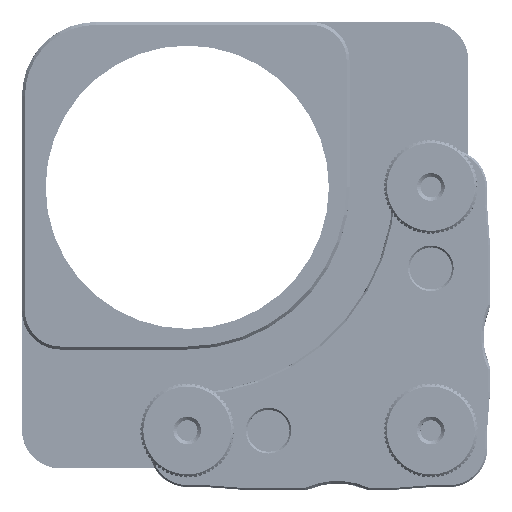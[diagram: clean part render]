
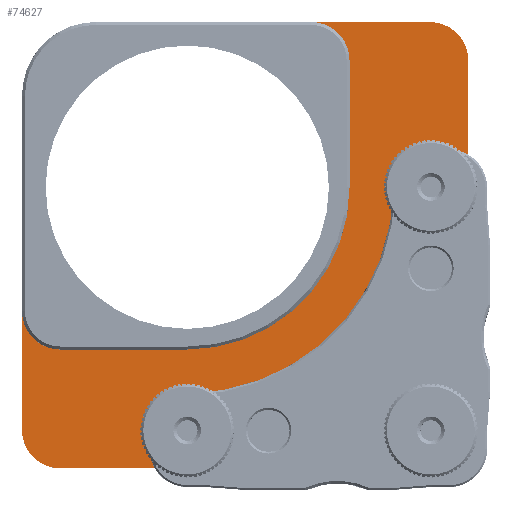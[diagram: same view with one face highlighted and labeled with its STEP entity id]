
A CAD part, top view. The second image highlights one B-rep face of the part: STEP entity #74627.
In plain terms, the highlighted planar face has unit normal (0, 0, 1).
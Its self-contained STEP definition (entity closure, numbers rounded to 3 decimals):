
#69602=CARTESIAN_POINT('',(-72.3,29.8,-3.429));
#69603=DIRECTION('',(0.,0.,-1.));
#69604=DIRECTION('',(0.,-1.,0.));
#69605=AXIS2_PLACEMENT_3D('',#69602,#69603,#69604);
#69641=CARTESIAN_POINT('',(-29.8,72.3,-3.429));
#69642=DIRECTION('',(0.,0.,-1.));
#69643=DIRECTION('',(0.,1.,0.));
#69644=AXIS2_PLACEMENT_3D('',#69641,#69642,#69643);
#71251=CARTESIAN_POINT('',(-49.606,9.525,
-3.429));
#71252=DIRECTION('',(0.,0.,1.));
#71253=DIRECTION('',(0.,-1.,
0.));
#71254=AXIS2_PLACEMENT_3D('',#71251,#71252,#71253);
#71256=DIRECTION('',(-1.,0.,0.));
#71257=VECTOR('',#71256,2.388);
#71258=CARTESIAN_POINT('',(-49.606,12.636,
-3.429));
#71259=LINE('',#71258,#71257);
#71260=CARTESIAN_POINT('',(-51.994,9.525,
-3.429));
#71261=DIRECTION('',(0.,0.,1.));
#71262=DIRECTION('',(0.,1.,0.));
#71263=AXIS2_PLACEMENT_3D('',#71260,#71261,#71262);
#71265=DIRECTION('',(1.,0.,0.));
#71266=VECTOR('',#71265,2.388);
#71267=CARTESIAN_POINT('',(-51.994,6.414,
-3.429));
#71268=LINE('',#71267,#71266);
#71269=CARTESIAN_POINT('',(-9.525,9.525,
-3.429));
#71270=DIRECTION('',(0.,0.,1.));
#71271=DIRECTION('',(1.,0.,0.));
#71272=AXIS2_PLACEMENT_3D('',#71269,#71270,#71271);
#71274=CARTESIAN_POINT('',(-9.525,9.525,
-3.429));
#71275=DIRECTION('',(0.,0.,1.));
#71276=DIRECTION('',(-1.,0.,0.));
#71277=AXIS2_PLACEMENT_3D('',#71274,#71275,#71276);
#71279=CARTESIAN_POINT('',(-9.525,50.8,-3.429));
#71280=DIRECTION('',(0.,0.,-1.));
#71281=DIRECTION('',(1.,0.,0.));
#71282=AXIS2_PLACEMENT_3D('',#71279,#71280,#71281);
#71284=CARTESIAN_POINT('',(-9.525,50.8,-3.429));
#71285=DIRECTION('',(0.,0.,-1.));
#71286=DIRECTION('',(-1.,0.,0.));
#71287=AXIS2_PLACEMENT_3D('',#71284,#71285,#71286);
#71289=CARTESIAN_POINT('',(-9.525,37.033,-3.429));
#71290=DIRECTION('',(0.,0.,-1.));
#71291=DIRECTION('',(1.,0.,0.));
#71292=AXIS2_PLACEMENT_3D('',#71289,#71290,#71291);
#71294=CARTESIAN_POINT('',(-9.525,37.033,-3.429));
#71295=DIRECTION('',(0.,0.,-1.));
#71296=DIRECTION('',(-1.,0.,0.));
#71297=AXIS2_PLACEMENT_3D('',#71294,#71295,#71296);
#71299=CARTESIAN_POINT('',(-37.033,9.525,-3.429));
#71300=DIRECTION('',(0.,0.,-1.));
#71301=DIRECTION('',(1.,0.,0.));
#71302=AXIS2_PLACEMENT_3D('',#71299,#71300,#71301);
#71304=CARTESIAN_POINT('',(-37.033,9.525,-3.429));
#71305=DIRECTION('',(0.,0.,-1.));
#71306=DIRECTION('',(-1.,0.,0.));
#71307=AXIS2_PLACEMENT_3D('',#71304,#71305,#71306);
#71309=DIRECTION('',(0.,-1.,0.));
#71310=VECTOR('',#71309,21.5);
#71311=CARTESIAN_POINT('',(-23.3,72.3,-3.429));
#71312=LINE('',#71311,#71310);
#71313=DIRECTION('',(1.,0.,0.));
#71314=VECTOR('',#71313,20.125);
#71315=CARTESIAN_POINT('',(-29.8,78.8,-3.429));
#71316=LINE('',#71315,#71314);
#71317=CARTESIAN_POINT('',(-9.675,72.3,-3.429));
#71318=DIRECTION('',(0.,0.,1.));
#71319=DIRECTION('',(1.,0.,0.));
#71320=AXIS2_PLACEMENT_3D('',#71317,#71318,#71319);
#71322=DIRECTION('',(0.,-1.,0.));
#71323=VECTOR('',#71322,62.775);
#71324=CARTESIAN_POINT('',(-3.175,72.3,-3.429));
#71325=LINE('',#71324,#71323);
#71326=CARTESIAN_POINT('',(-72.3,9.675,-3.429));
#71327=DIRECTION('',(0.,0.,1.));
#71328=DIRECTION('',(-1.,0.,0.));
#71329=AXIS2_PLACEMENT_3D('',#71326,#71327,#71328);
#71331=DIRECTION('',(0.,1.,0.));
#71332=VECTOR('',#71331,20.125);
#71333=CARTESIAN_POINT('',(-78.8,9.675,-3.429));
#71334=LINE('',#71333,#71332);
#71335=DIRECTION('',(1.,0.,0.));
#71336=VECTOR('',#71335,21.5);
#71337=CARTESIAN_POINT('',(-72.3,23.3,-3.429));
#71338=LINE('',#71337,#71336);
#71339=CARTESIAN_POINT('',(-50.8,50.8,-3.429));
#71340=DIRECTION('',(0.,0.,1.));
#71341=DIRECTION('',(0.,-1.,0.));
#71342=AXIS2_PLACEMENT_3D('',#71339,#71340,#71341);
#71764=DIRECTION('',(1.,0.,0.));
#71765=VECTOR('',#71764,62.775);
#71766=CARTESIAN_POINT('',(-72.3,3.175,-3.429));
#71767=LINE('',#71766,#71765);
#71785=CARTESIAN_POINT('',(-9.525,9.525,-3.429));
#71786=DIRECTION('',(0.,0.,1.));
#71787=DIRECTION('',(0.,-1.,0.));
#71788=AXIS2_PLACEMENT_3D('',#71785,#71786,#71787);
#71928=CARTESIAN_POINT('',(-49.606,12.636,
-3.429));
#71929=CARTESIAN_POINT('',(-51.994,12.636,
-3.429));
#71930=VERTEX_POINT('',#71928);
#71931=VERTEX_POINT('',#71929);
#71932=CARTESIAN_POINT('',(-51.994,6.414,
-3.429));
#71933=CARTESIAN_POINT('',(-49.606,6.414,
-3.429));
#71934=VERTEX_POINT('',#71932);
#71935=VERTEX_POINT('',#71933);
#71969=CARTESIAN_POINT('',(-11.913,9.525,
-3.429));
#71971=VERTEX_POINT('',#71969);
#71972=CARTESIAN_POINT('',(-7.137,9.525,
-3.429));
#71974=VERTEX_POINT('',#71972);
#71980=CARTESIAN_POINT('',(-6.335,50.8,-3.429));
#71981=CARTESIAN_POINT('',(-12.715,50.8,-3.429));
#71982=VERTEX_POINT('',#71980);
#71983=VERTEX_POINT('',#71981);
#71988=CARTESIAN_POINT('',(-5.756,37.033,-3.429));
#71989=CARTESIAN_POINT('',(-13.294,37.033,-3.429));
#71990=VERTEX_POINT('',#71988);
#71991=VERTEX_POINT('',#71989);
#71996=CARTESIAN_POINT('',(-33.265,9.525,-3.429));
#71997=CARTESIAN_POINT('',(-40.802,9.525,-3.429));
#71998=VERTEX_POINT('',#71996);
#71999=VERTEX_POINT('',#71997);
#72052=CARTESIAN_POINT('',(-9.525,3.175,-3.429));
#72053=CARTESIAN_POINT('',(-3.175,9.525,-3.429));
#72054=VERTEX_POINT('',#72052);
#72055=VERTEX_POINT('',#72053);
#72060=CARTESIAN_POINT('',(-50.8,23.3,-3.429));
#72061=CARTESIAN_POINT('',(-23.3,50.8,-3.429));
#72062=VERTEX_POINT('',#72060);
#72063=VERTEX_POINT('',#72061);
#72084=CARTESIAN_POINT('',(-78.8,9.675,-3.429));
#72085=CARTESIAN_POINT('',(-72.3,3.175,-3.429));
#72086=VERTEX_POINT('',#72084);
#72087=VERTEX_POINT('',#72085);
#72088=CARTESIAN_POINT('',(-3.175,72.3,-3.429));
#72089=CARTESIAN_POINT('',(-9.675,78.8,-3.429));
#72090=VERTEX_POINT('',#72088);
#72091=VERTEX_POINT('',#72089);
#72092=CARTESIAN_POINT('',(-23.3,72.3,-3.429));
#72093=VERTEX_POINT('',#72092);
#72094=CARTESIAN_POINT('',(-72.3,23.3,-3.429));
#72095=VERTEX_POINT('',#72094);
#72096=CARTESIAN_POINT('',(-78.8,29.8,-3.429));
#72097=VERTEX_POINT('',#72096);
#72098=CARTESIAN_POINT('',(-29.8,78.8,-3.429));
#72099=VERTEX_POINT('',#72098);
#74570=CARTESIAN_POINT('',(-40.881,40.886,-3.429));
#74571=DIRECTION('',(0.,0.,1.));
#74572=DIRECTION('',(0.,-1.,0.));
#74573=AXIS2_PLACEMENT_3D('',#74570,#74571,#74572);
#74574=PLANE('',#74573);
#74575=ORIENTED_EDGE('',*,*,#72512,.F.);
#74576=ORIENTED_EDGE('',*,*,#72526,.F.);
#74577=ORIENTED_EDGE('',*,*,#72541,.T.);
#74579=ORIENTED_EDGE('',*,*,#74578,.F.);
#74581=ORIENTED_EDGE('',*,*,#74580,.T.);
#74583=ORIENTED_EDGE('',*,*,#74582,.F.);
#74585=ORIENTED_EDGE('',*,*,#74584,.F.);
#74587=ORIENTED_EDGE('',*,*,#74586,.F.);
#74589=ORIENTED_EDGE('',*,*,#74588,.T.);
#74590=ORIENTED_EDGE('',*,*,#72469,.F.);
#74591=ORIENTED_EDGE('',*,*,#72484,.T.);
#74592=ORIENTED_EDGE('',*,*,#72498,.T.);
#74593=EDGE_LOOP('',(#74575,#74576,#74577,#74579,#74581,#74583,#74585,#74587,
#74589,#74590,#74591,#74592));
#74594=FACE_OUTER_BOUND('',#74593,.F.);
#74595=ORIENTED_EDGE('',*,*,#74549,.T.);
#74596=ORIENTED_EDGE('',*,*,#74565,.T.);
#74597=EDGE_LOOP('',(#74595,#74596));
#74598=FACE_BOUND('',#74597,.F.);
#74600=ORIENTED_EDGE('',*,*,#74599,.F.);
#74602=ORIENTED_EDGE('',*,*,#74601,.F.);
#74603=EDGE_LOOP('',(#74600,#74602));
#74604=FACE_BOUND('',#74603,.F.);
#74606=ORIENTED_EDGE('',*,*,#74605,.F.);
#74608=ORIENTED_EDGE('',*,*,#74607,.F.);
#74609=EDGE_LOOP('',(#74606,#74608));
#74610=FACE_BOUND('',#74609,.F.);
#74612=ORIENTED_EDGE('',*,*,#74611,.F.);
#74614=ORIENTED_EDGE('',*,*,#74613,.F.);
#74615=EDGE_LOOP('',(#74612,#74614));
#74616=FACE_BOUND('',#74615,.F.);
#74618=ORIENTED_EDGE('',*,*,#74617,.T.);
#74620=ORIENTED_EDGE('',*,*,#74619,.T.);
#74622=ORIENTED_EDGE('',*,*,#74621,.T.);
#74624=ORIENTED_EDGE('',*,*,#74623,.T.);
#74625=EDGE_LOOP('',(#74618,#74620,#74622,#74624));
#74626=FACE_BOUND('',#74625,.F.);
#74627=ADVANCED_FACE('',(#74594,#74598,#74604,#74610,#74616,#74626),#74574,.T.);
#69606=CIRCLE('',#69605,6.5);
#69645=CIRCLE('',#69644,6.5);
#71255=CIRCLE('',#71254,3.112);
#71264=CIRCLE('',#71263,3.112);
#71273=CIRCLE('',#71272,2.388);
#71278=CIRCLE('',#71277,2.388);
#71283=CIRCLE('',#71282,3.19);
#71288=CIRCLE('',#71287,3.19);
#71293=CIRCLE('',#71292,3.769);
#71298=CIRCLE('',#71297,3.769);
#71303=CIRCLE('',#71302,3.769);
#71308=CIRCLE('',#71307,3.769);
#71321=CIRCLE('',#71320,6.5);
#71330=CIRCLE('',#71329,6.5);
#71343=CIRCLE('',#71342,27.5);
#71789=CIRCLE('',#71788,6.35);
#72469=EDGE_CURVE('',#72095,#72097,#69606,.T.);
#72484=EDGE_CURVE('',#72095,#72062,#71338,.T.);
#72498=EDGE_CURVE('',#72062,#72063,#71343,.T.);
#72512=EDGE_CURVE('',#72093,#72063,#71312,.T.);
#72526=EDGE_CURVE('',#72099,#72093,#69645,.T.);
#72541=EDGE_CURVE('',#72099,#72091,#71316,.T.);
#74549=EDGE_CURVE('',#71974,#71971,#71273,.T.);
#74565=EDGE_CURVE('',#71971,#71974,#71278,.T.);
#74578=EDGE_CURVE('',#72090,#72091,#71321,.T.);
#74580=EDGE_CURVE('',#72090,#72055,#71325,.T.);
#74582=EDGE_CURVE('',#72054,#72055,#71789,.T.);
#74584=EDGE_CURVE('',#72087,#72054,#71767,.T.);
#74586=EDGE_CURVE('',#72086,#72087,#71330,.T.);
#74588=EDGE_CURVE('',#72086,#72097,#71334,.T.);
#74599=EDGE_CURVE('',#71982,#71983,#71283,.T.);
#74601=EDGE_CURVE('',#71983,#71982,#71288,.T.);
#74605=EDGE_CURVE('',#71990,#71991,#71293,.T.);
#74607=EDGE_CURVE('',#71991,#71990,#71298,.T.);
#74611=EDGE_CURVE('',#71998,#71999,#71303,.T.);
#74613=EDGE_CURVE('',#71999,#71998,#71308,.T.);
#74617=EDGE_CURVE('',#71935,#71930,#71255,.T.);
#74619=EDGE_CURVE('',#71930,#71931,#71259,.T.);
#74621=EDGE_CURVE('',#71931,#71934,#71264,.T.);
#74623=EDGE_CURVE('',#71934,#71935,#71268,.T.);
